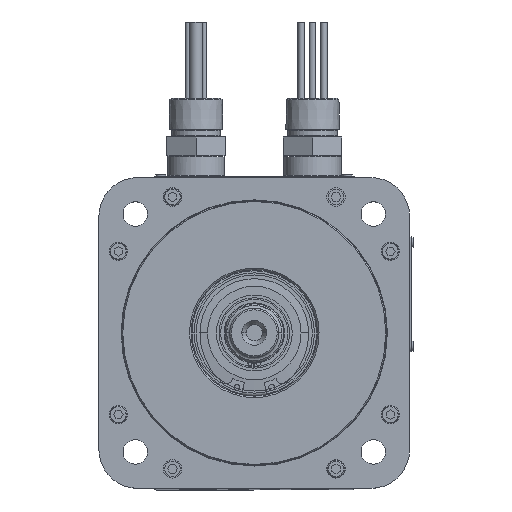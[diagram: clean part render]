
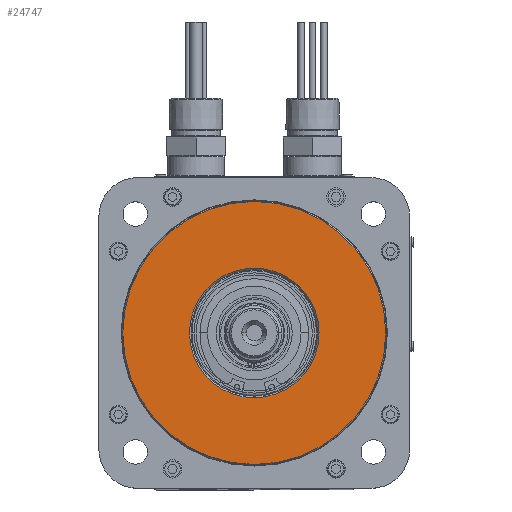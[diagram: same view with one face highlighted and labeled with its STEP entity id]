
A CAD part, top view. The second image highlights one B-rep face of the part: STEP entity #24747.
In plain terms, the highlighted planar face has unit normal (0, 0, 1).
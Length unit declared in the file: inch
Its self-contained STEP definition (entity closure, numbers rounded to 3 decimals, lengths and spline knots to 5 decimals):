
#2266 = CARTESIAN_POINT ( 'NONE',  ( 0., 1.22055, -1.827 ) ) ;
#2267 = PLANE ( 'NONE',  #9630 ) ;
#2269 = DIRECTION ( 'NONE',  ( 0., 0., 1. ) ) ;
#2270 = DIRECTION ( 'NONE',  ( 1., 0., 0. ) ) ;
#5742 = CIRCLE ( 'NONE', #42571, 1.25055 ) ;
#5749 = CIRCLE ( 'NONE', #42564, 2.53906 ) ;
#6016 = CIRCLE ( 'NONE', #42525, 2.53906 ) ;
#9630 = AXIS2_PLACEMENT_3D ( 'NONE', #2266, #2269, #2270 ) ;
#10290 = CARTESIAN_POINT ( 'NONE',  ( 0., 0., -1.827 ) ) ;
#10296 = DIRECTION ( 'NONE',  ( 1., 0., 0. ) ) ;
#10299 = DIRECTION ( 'NONE',  ( 0., 0., 1. ) ) ;
#20988 = EDGE_CURVE ( 'NONE', #52417, #52418, #5742, .T. ) ;
#20991 = EDGE_CURVE ( 'NONE', #52370, #52369, #5749, .T. ) ;
#21058 = EDGE_CURVE ( 'NONE', #52369, #52370, #6016, .T. ) ;
#21237 = EDGE_CURVE ( 'NONE', #52418, #52417, #31453, .T. ) ;
#24747 = ADVANCED_FACE ( 'NONE', ( #30169, #30152 ), #2267, .T. ) ;
#29909 = CARTESIAN_POINT ( 'NONE',  ( 2.53906, 0., -1.827 ) ) ;
#29911 = CARTESIAN_POINT ( 'NONE',  ( -2.53906, 0., -1.827 ) ) ;
#29989 = CARTESIAN_POINT ( 'NONE',  ( -1.25055, 0., -1.827 ) ) ;
#29990 = CARTESIAN_POINT ( 'NONE',  ( 1.25055, 0., -1.827 ) ) ;
#30152 = FACE_BOUND ( 'NONE', #51250, .T. ) ;
#30169 = FACE_OUTER_BOUND ( 'NONE', #51237, .T. ) ;
#31453 = CIRCLE ( 'NONE', #42312, 1.25055 ) ;
#36124 = ORIENTED_EDGE ( 'NONE', *, *, #20988, .T. ) ;
#36125 = ORIENTED_EDGE ( 'NONE', *, *, #21237, .T. ) ;
#36126 = ORIENTED_EDGE ( 'NONE', *, *, #21058, .T. ) ;
#36127 = ORIENTED_EDGE ( 'NONE', *, *, #20991, .T. ) ;
#38687 = DIRECTION ( 'NONE',  ( 1., 0., 0. ) ) ;
#38690 = CARTESIAN_POINT ( 'NONE',  ( 0., 0., -1.827 ) ) ;
#38691 = DIRECTION ( 'NONE',  ( 0., 0., -1. ) ) ;
#38713 = DIRECTION ( 'NONE',  ( 1., 0., 0. ) ) ;
#38714 = DIRECTION ( 'NONE',  ( 0., 0., 1. ) ) ;
#38719 = CARTESIAN_POINT ( 'NONE',  ( 0., 0., -1.827 ) ) ;
#42312 = AXIS2_PLACEMENT_3D ( 'NONE', #49103, #49111, #49112 ) ;
#42525 = AXIS2_PLACEMENT_3D ( 'NONE', #10290, #10299, #10296 ) ;
#42564 = AXIS2_PLACEMENT_3D ( 'NONE', #38719, #38714, #38713 ) ;
#42571 = AXIS2_PLACEMENT_3D ( 'NONE', #38690, #38691, #38687 ) ;
#49103 = CARTESIAN_POINT ( 'NONE',  ( 0., 0., -1.827 ) ) ;
#49111 = DIRECTION ( 'NONE',  ( 0., 0., -1. ) ) ;
#49112 = DIRECTION ( 'NONE',  ( 1., 0., 0. ) ) ;
#51237 = EDGE_LOOP ( 'NONE', ( #36127, #36126 ) ) ;
#51250 = EDGE_LOOP ( 'NONE', ( #36125, #36124 ) ) ;
#52369 = VERTEX_POINT ( 'NONE', #29909 ) ;
#52370 = VERTEX_POINT ( 'NONE', #29911 ) ;
#52417 = VERTEX_POINT ( 'NONE', #29989 ) ;
#52418 = VERTEX_POINT ( 'NONE', #29990 ) ;
